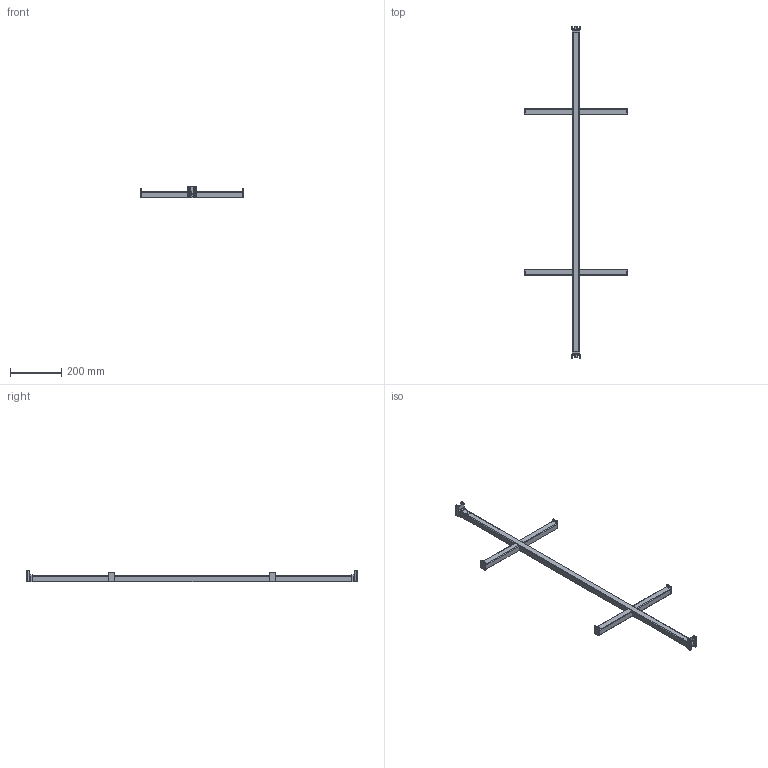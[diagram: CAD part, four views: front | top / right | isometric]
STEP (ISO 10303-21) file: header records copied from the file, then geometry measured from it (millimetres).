
FILE_DESCRIPTION (( 'STEP AP214' ), '1' );
FILE_NAME ('1000257.STEP', '2025-10-01T13:45:25', ( '' ), ( '' ), 'SwSTEP 2.0', 'SolidWorks 2025', '' );
FILE_SCHEMA (( 'AUTOMOTIVE_DESIGN' ));
Length unit declared in the file: millimetre
Products named in the file (1): 1000257
Bounding box: 400 x 1293 x 46 mm (x, y, z)
Volume: 1325774.8 mm3; surface area: 231032.4 mm2
Topology: 11 solids, 11 shells, 486 faces, 1317 edges, 853 vertices
Faces by surface type: plane 281, cylinder 181, bspline 24
Entity records: 16059 total; most frequent: CARTESIAN_POINT 4116, ORIENTED_EDGE 2634, DIRECTION 2217, EDGE_CURVE 1317, VECTOR 853, LINE 853, VERTEX_POINT 853, AXIS2_PLACEMENT_3D 682
